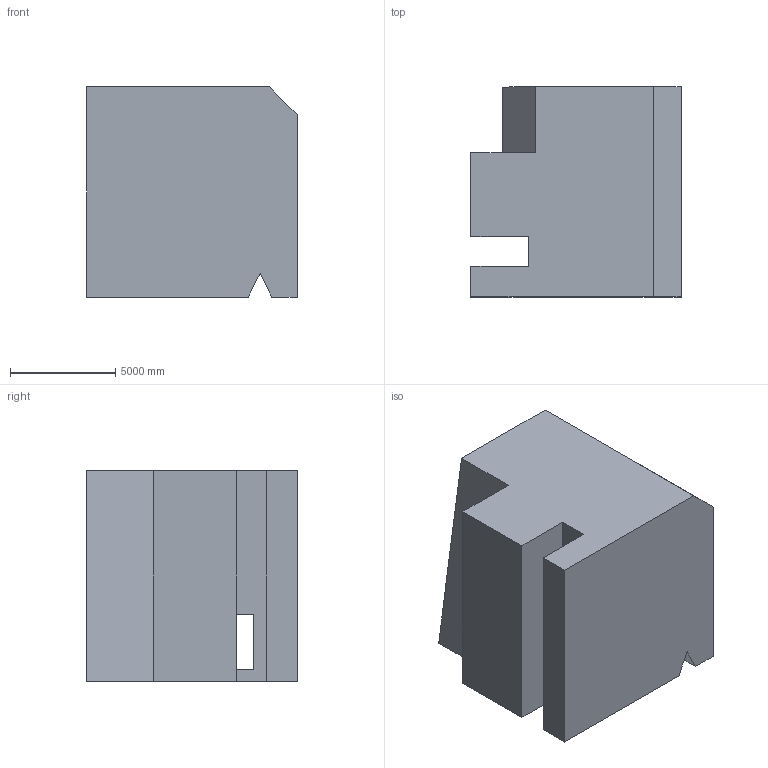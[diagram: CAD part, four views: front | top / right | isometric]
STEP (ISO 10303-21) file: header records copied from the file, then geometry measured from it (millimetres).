
FILE_DESCRIPTION (( 'STEP AP203' ), '1' );
FILE_NAME ('1557.STEP', '2022-08-18T15:47:00', ( 'user' ), ( '' ), 'SwSTEP 2.0', 'SolidWorks 2021', '' );
FILE_SCHEMA (( 'CONFIG_CONTROL_DESIGN' ));
Length unit declared in the file: centimetre
Products named in the file (1): 1557
Bounding box: 10000 x 10000 x 10000 mm (x, y, z)
Volume: 812229853115.5 mm3; surface area: 738133954.8 mm2
Topology: 1 solids, 1 shells, 25 faces, 75 edges, 50 vertices
Faces by surface type: plane 23, cylinder 2
Entity records: 918 total; most frequent: CARTESIAN_POINT 151, ORIENTED_EDGE 150, DIRECTION 131, EDGE_CURVE 75, LINE 71, VECTOR 71, VERTEX_POINT 50, AXIS2_PLACEMENT_3D 30
